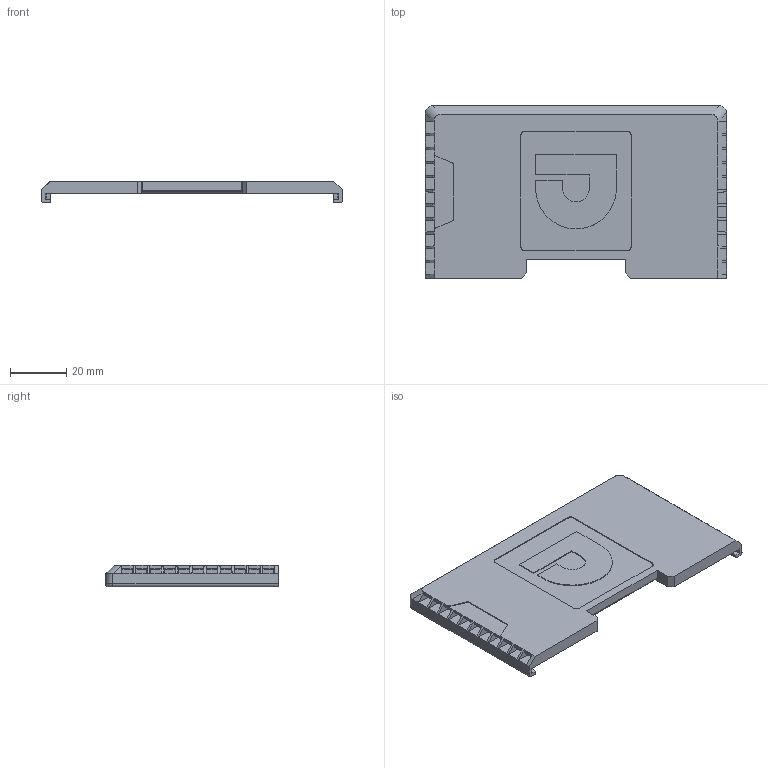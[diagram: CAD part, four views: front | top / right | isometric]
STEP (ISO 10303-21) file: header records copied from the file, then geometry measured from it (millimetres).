
FILE_DESCRIPTION((''),'2;1');
FILE_NAME('XB6S_END','2026-04-09T18:46:44',('Administrator'),(''),'CREO PARAMETRIC BY PTC INC, 2022073','CREO PARAMETRIC BY PTC INC, 2022073','');
FILE_SCHEMA(('CONFIG_CONTROL_DESIGN','SHAPE_APPEARANCE_LAYERS_GROUPS'));
Length unit declared in the file: millimetre
Products named in the file (1): XB6S_END
Bounding box: 106.67 x 61.21 x 7.7 mm (x, y, z)
Volume: 16795 mm3; surface area: 22866.3 mm2
Topology: 1 solids, 2 shells, 590 faces, 1465 edges, 949 vertices
Faces by surface type: plane 556, cylinder 25, cone 3, extrusion 2, torus 2, bspline 2
Entity records: 21637 total; most frequent: CARTESIAN_POINT 3179, ORIENTED_EDGE 2925, DIRECTION 2647, PRESENTATION_STYLE_ASSIGNMENT 1467, STYLED_ITEM 1467, CURVE_STYLE 1465, EDGE_CURVE 1465, VECTOR 1399
